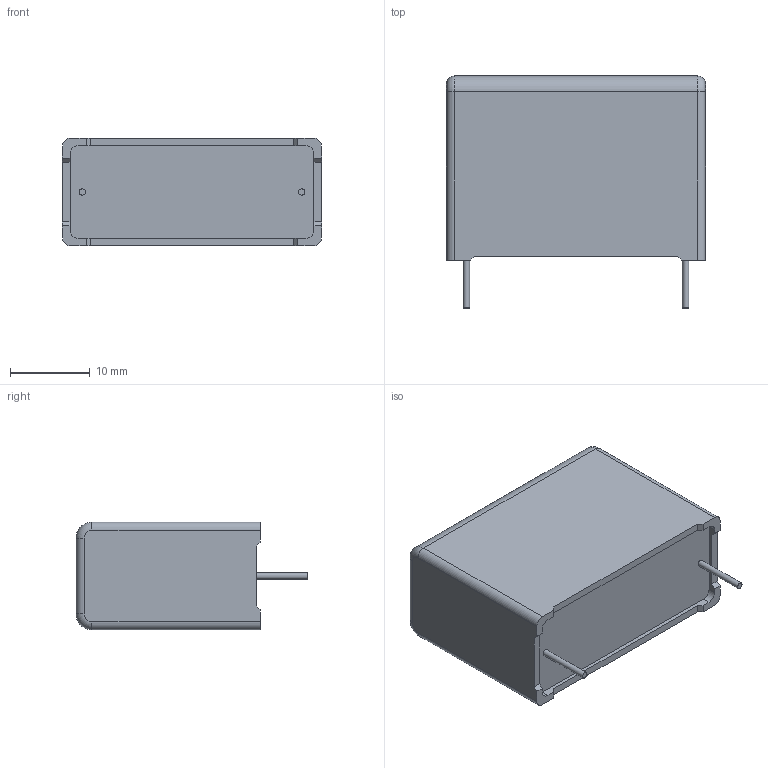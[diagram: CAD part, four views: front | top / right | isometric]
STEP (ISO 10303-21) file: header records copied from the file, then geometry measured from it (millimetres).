
FILE_DESCRIPTION (( 'STEP AP203' ), '1' );
FILE_NAME ('MKP1847H51031+K2.step', '2018-01-17T10:50:35', ( 'work' ), ( 'Hewlett-Packard Company' ), 'SwSTEP 2.0', 'SolidWorks 2017', '' );
FILE_SCHEMA (( 'CONFIG_CONTROL_DESIGN' ));
Length unit declared in the file: millimetre
Products named in the file (1): MKP1847H51031+K2
Bounding box: 32.5 x 29.1 x 13.5 mm (x, y, z)
Volume: 9675.3 mm3; surface area: 2943.9 mm2
Topology: 1 solids, 1 shells, 114 faces, 303 edges, 200 vertices
Faces by surface type: plane 80, bspline 16, cylinder 14, torus 4
Full cylindrical faces by diameter (mm): 0.8 x2
Entity records: 4252 total; most frequent: CARTESIAN_POINT 1436, ORIENTED_EDGE 598, DIRECTION 497, EDGE_CURVE 299, VECTOR 235, LINE 235, VERTEX_POINT 198, AXIS2_PLACEMENT_3D 131
